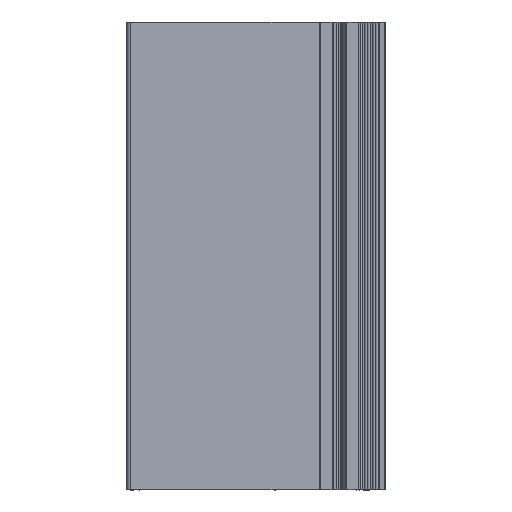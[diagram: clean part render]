
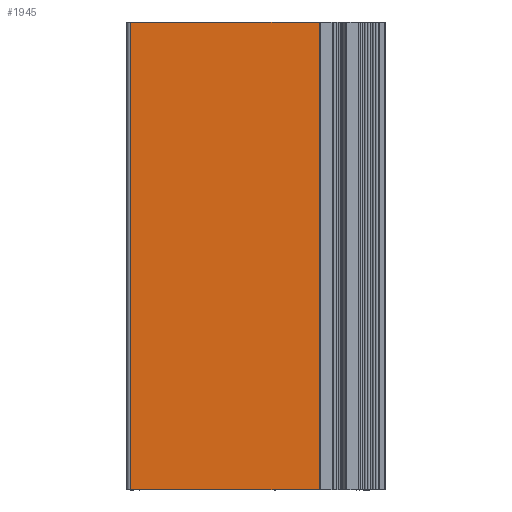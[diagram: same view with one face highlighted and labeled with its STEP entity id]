
A CAD part, front view. The second image highlights one B-rep face of the part: STEP entity #1945.
In plain terms, the highlighted planar face has unit normal (0, -1, 0).
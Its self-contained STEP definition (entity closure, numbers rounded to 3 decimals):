
#512 = VERTEX_POINT ( 'NONE', #4712 ) ;
#651 = LINE ( 'NONE', #2811, #5580 ) ;
#686 = CARTESIAN_POINT ( 'NONE',  ( -77.5, 3.06, -152.4 ) ) ;
#712 = CARTESIAN_POINT ( 'NONE',  ( -77.5, 3.06, 152.4 ) ) ;
#744 = CARTESIAN_POINT ( 'NONE',  ( -77.5, 3.06, 152.4 ) ) ;
#836 = EDGE_LOOP ( 'NONE', ( #1424, #2980, #1177, #2398 ) ) ;
#1168 = LINE ( 'NONE', #2536, #4746 ) ;
#1177 = ORIENTED_EDGE ( 'NONE', *, *, #2292, .T. ) ;
#1243 = AXIS2_PLACEMENT_3D ( 'NONE', #4398, #2255, #3160 ) ;
#1396 = DIRECTION ( 'NONE',  ( 0., 0., 1. ) ) ;
#1403 = FACE_OUTER_BOUND ( 'NONE', #836, .T. ) ;
#1424 = ORIENTED_EDGE ( 'NONE', *, *, #5189, .F. ) ;
#1533 = VECTOR ( 'NONE', #1396, 1000. ) ;
#1623 = DIRECTION ( 'NONE',  ( 0., 0., -1. ) ) ;
#1901 = DIRECTION ( 'NONE',  ( 1., 0., 0. ) ) ;
#1945 = ADVANCED_FACE ( 'NONE', ( #1403 ), #2677, .F. ) ;
#2163 = VERTEX_POINT ( 'NONE', #686 ) ;
#2255 = DIRECTION ( 'NONE',  ( 0., 1., 0. ) ) ;
#2292 = EDGE_CURVE ( 'NONE', #2163, #4610, #651, .T. ) ;
#2398 = ORIENTED_EDGE ( 'NONE', *, *, #2635, .T. ) ;
#2536 = CARTESIAN_POINT ( 'NONE',  ( -80., 3.06, 152.4 ) ) ;
#2635 = EDGE_CURVE ( 'NONE', #4610, #512, #3571, .T. ) ;
#2677 = PLANE ( 'NONE',  #1243 ) ;
#2722 = EDGE_CURVE ( 'NONE', #3939, #2163, #3744, .T. ) ;
#2811 = CARTESIAN_POINT ( 'NONE',  ( -80., 3.06, -152.4 ) ) ;
#2980 = ORIENTED_EDGE ( 'NONE', *, *, #2722, .T. ) ;
#3160 = DIRECTION ( 'NONE',  ( 0., 0., 1. ) ) ;
#3571 = LINE ( 'NONE', #5262, #1533 ) ;
#3698 = VECTOR ( 'NONE', #1623, 1000. ) ;
#3744 = LINE ( 'NONE', #712, #3698 ) ;
#3939 = VERTEX_POINT ( 'NONE', #744 ) ;
#4398 = CARTESIAN_POINT ( 'NONE',  ( -80., 3.06, 152.4 ) ) ;
#4572 = CARTESIAN_POINT ( 'NONE',  ( 45.253, 3.06, -152.4 ) ) ;
#4610 = VERTEX_POINT ( 'NONE', #4572 ) ;
#4618 = DIRECTION ( 'NONE',  ( 1., 0., 0. ) ) ;
#4712 = CARTESIAN_POINT ( 'NONE',  ( 45.253, 3.06, 152.4 ) ) ;
#4746 = VECTOR ( 'NONE', #4618, 1000. ) ;
#5189 = EDGE_CURVE ( 'NONE', #3939, #512, #1168, .T. ) ;
#5262 = CARTESIAN_POINT ( 'NONE',  ( 45.253, 3.06, 152.4 ) ) ;
#5580 = VECTOR ( 'NONE', #1901, 1000. ) ;
